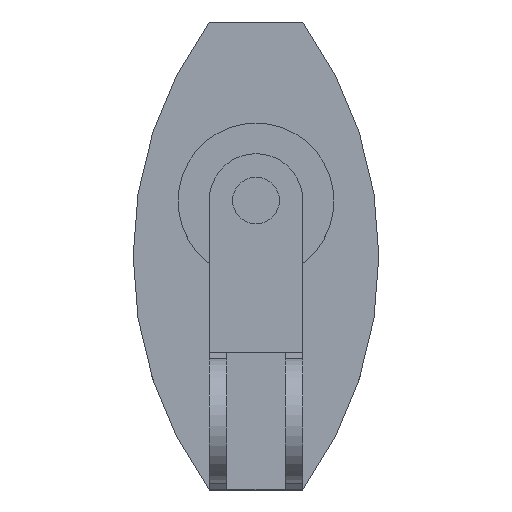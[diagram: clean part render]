
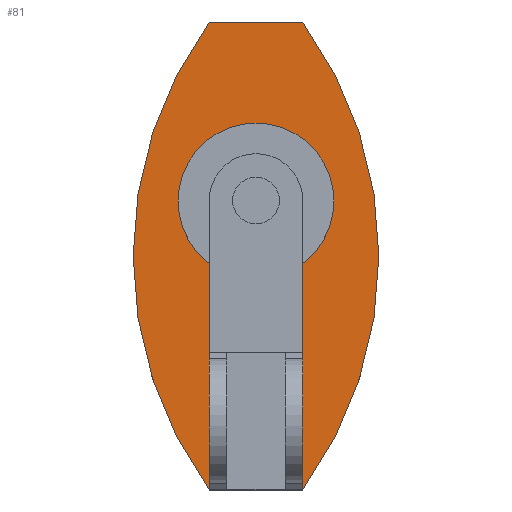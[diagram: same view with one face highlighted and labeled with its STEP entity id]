
A CAD part, top view. The second image highlights one B-rep face of the part: STEP entity #81.
In plain terms, the highlighted planar face has unit normal (0, 0, 1).
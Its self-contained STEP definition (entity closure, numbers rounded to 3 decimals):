
#81=ADVANCED_FACE('',(#249,#251),#253,.T.);
#249=FACE_BOUND('',#250,.T.);
#250=EDGE_LOOP('',(#517,#518,#519,#520,#521,#522));
#251=FACE_BOUND('',#252,.T.);
#252=EDGE_LOOP('',(#523));
#253=PLANE('',#254);
#254=AXIS2_PLACEMENT_3D('',#255,#256,#257);
#255=CARTESIAN_POINT('',(-24.,91.873,-50.));
#256=DIRECTION('',(0.,0.,1.));
#257=DIRECTION('',(0.,-1.,0.));
#517=ORIENTED_EDGE('',*,*,#657,.T.);
#518=ORIENTED_EDGE('',*,*,#660,.T.);
#519=ORIENTED_EDGE('',*,*,#661,.T.);
#520=ORIENTED_EDGE('',*,*,#662,.F.);
#521=ORIENTED_EDGE('',*,*,#663,.T.);
#522=ORIENTED_EDGE('',*,*,#638,.T.);
#523=ORIENTED_EDGE('',*,*,#664,.F.);
#638=EDGE_CURVE('',#751,#749,#752,.F.);
#657=EDGE_CURVE('',#749,#777,#779,.T.);
#660=EDGE_CURVE('',#777,#784,#785,.T.);
#661=EDGE_CURVE('',#784,#786,#787,.F.);
#662=EDGE_CURVE('',#788,#786,#789,.T.);
#663=EDGE_CURVE('',#788,#751,#790,.F.);
#664=EDGE_CURVE('',#791,#791,#792,.T.);
#749=VERTEX_POINT('',#965);
#751=VERTEX_POINT('',#969);
#752=LINE('',#970,#971);
#777=VERTEX_POINT('',#1032);
#779=LINE('',#1036,#1037);
#784=VERTEX_POINT('',#1049);
#785=LINE('',#1050,#1051);
#786=VERTEX_POINT('',#1053);
#787=CIRCLE('',#1054,204.115);
#788=VERTEX_POINT('',#1058);
#789=LINE('',#1059,#1060);
#790=CIRCLE('',#1062,204.115);
#791=VERTEX_POINT('',#1066);
#792=CIRCLE('',#1067,40.);
#965=CARTESIAN_POINT('',(-24.,-110.127,-50.));
#969=CARTESIAN_POINT('',(-24.,-148.127,-50.));
#970=CARTESIAN_POINT('',(-24.,-110.127,-50.));
#971=VECTOR('',#972,1.);
#972=DIRECTION('',(0.,-1.,0.));
#1032=CARTESIAN_POINT('',(24.,-110.127,-50.));
#1036=CARTESIAN_POINT('',(-24.,-110.127,-50.));
#1037=VECTOR('',#1038,1.);
#1038=DIRECTION('',(1.,0.,0.));
#1049=CARTESIAN_POINT('',(24.,-148.127,-50.));
#1050=CARTESIAN_POINT('',(24.,-110.127,-50.));
#1051=VECTOR('',#1052,1.);
#1052=DIRECTION('',(0.,-1.,0.));
#1053=CARTESIAN_POINT('',(24.,91.873,-50.));
#1054=AXIS2_PLACEMENT_3D('',#1055,#1056,#1057);
#1055=CARTESIAN_POINT('',(-141.115,-28.127,-50.));
#1056=DIRECTION('',(0.,0.,-1.));
#1057=DIRECTION('',(0.809,0.588,0.));
#1058=CARTESIAN_POINT('',(-24.,91.873,-50.));
#1059=CARTESIAN_POINT('',(-24.,91.873,-50.));
#1060=VECTOR('',#1061,1.);
#1061=DIRECTION('',(1.,0.,0.));
#1062=AXIS2_PLACEMENT_3D('',#1063,#1064,#1065);
#1063=CARTESIAN_POINT('',(141.115,-28.127,-50.));
#1064=DIRECTION('',(0.,0.,-1.));
#1065=DIRECTION('',(-0.809,-0.588,0.));
#1066=CARTESIAN_POINT('',(0.,40.,-50.));
#1067=AXIS2_PLACEMENT_3D('',#1068,#1069,#1070);
#1068=CARTESIAN_POINT('',(0.,0.,-50.));
#1069=DIRECTION('',(0.,0.,1.));
#1070=DIRECTION('',(0.,1.,0.));
